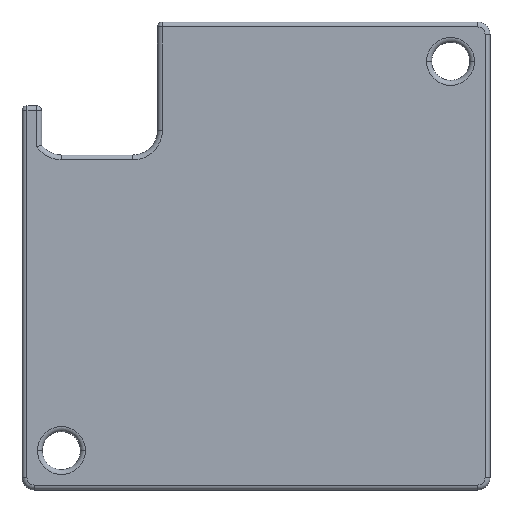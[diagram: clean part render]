
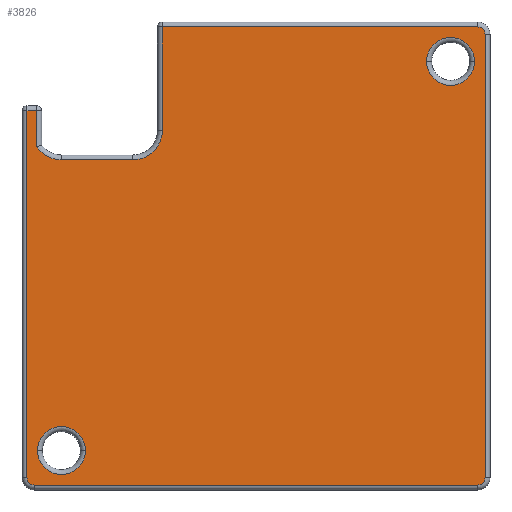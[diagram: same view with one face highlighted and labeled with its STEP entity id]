
A CAD part, left-side view. The second image highlights one B-rep face of the part: STEP entity #3826.
In plain terms, the highlighted planar face has unit normal (-1, 0, 0).
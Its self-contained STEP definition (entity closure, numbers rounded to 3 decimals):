
#3015=CARTESIAN_POINT('Vertex',(0.,6.925,-7.9)) ;
#3018=CARTESIAN_POINT('Axis2P3D Location',(0.,7.9,-7.9)) ;
#3022=CARTESIAN_POINT('Vertex',(0.,8.875,-7.9)) ;
#3042=CARTESIAN_POINT('Axis2P3D Location',(0.,7.9,-7.9)) ;
#3269=CARTESIAN_POINT('Vertex',(0.,-8.875,7.9)) ;
#3272=CARTESIAN_POINT('Axis2P3D Location',(0.,-7.9,7.9)) ;
#3276=CARTESIAN_POINT('Vertex',(0.,-6.925,7.9)) ;
#3296=CARTESIAN_POINT('Axis2P3D Location',(0.,-7.9,7.9)) ;
#3707=CARTESIAN_POINT('Axis2P3D Location',(0.,0.,0.)) ;
#3712=CARTESIAN_POINT('Line Origine',(0.,8.9,5.168)) ;
#3716=CARTESIAN_POINT('Vertex',(0.,8.9,5.9)) ;
#3718=CARTESIAN_POINT('Vertex',(0.,8.9,4.437)) ;
#3721=CARTESIAN_POINT('Line Origine',(0.,9.1,5.9)) ;
#3725=CARTESIAN_POINT('Vertex',(0.,9.3,5.9)) ;
#3728=CARTESIAN_POINT('Line Origine',(0.,9.3,-1.55)) ;
#3732=CARTESIAN_POINT('Vertex',(0.,9.3,-9.)) ;
#3735=CARTESIAN_POINT('Axis2P3D Location',(0.,9.,-9.)) ;
#3739=CARTESIAN_POINT('Vertex',(0.,9.,-9.3)) ;
#3742=CARTESIAN_POINT('Line Origine',(0.,0.,-9.3)) ;
#3746=CARTESIAN_POINT('Vertex',(0.,-9.,-9.3)) ;
#3749=CARTESIAN_POINT('Axis2P3D Location',(0.,-9.,-9.)) ;
#3753=CARTESIAN_POINT('Vertex',(0.,-9.3,-9.)) ;
#3756=CARTESIAN_POINT('Line Origine',(0.,-9.3,0.)) ;
#3760=CARTESIAN_POINT('Vertex',(0.,-9.3,9.)) ;
#3763=CARTESIAN_POINT('Axis2P3D Location',(0.,-9.,9.)) ;
#3767=CARTESIAN_POINT('Vertex',(0.,-9.,9.3)) ;
#3770=CARTESIAN_POINT('Line Origine',(0.,-2.6,9.3)) ;
#3774=CARTESIAN_POINT('Vertex',(0.,3.8,9.3)) ;
#3777=CARTESIAN_POINT('Line Origine',(0.,3.8,7.2)) ;
#3781=CARTESIAN_POINT('Vertex',(0.,3.8,5.1)) ;
#3784=CARTESIAN_POINT('Axis2P3D Location',(0.,5.,5.1)) ;
#3788=CARTESIAN_POINT('Vertex',(0.,5.,3.9)) ;
#3791=CARTESIAN_POINT('Line Origine',(0.,6.45,3.9)) ;
#3795=CARTESIAN_POINT('Vertex',(0.,7.9,3.9)) ;
#3798=CARTESIAN_POINT('Axis2P3D Location',(0.,7.9,5.1)) ;
#3019=DIRECTION('Axis2P3D Direction',(1.,-0.,0.)) ;
#3043=DIRECTION('Axis2P3D Direction',(1.,0.,-0.)) ;
#3273=DIRECTION('Axis2P3D Direction',(1.,-0.,0.)) ;
#3297=DIRECTION('Axis2P3D Direction',(1.,0.,-0.)) ;
#3708=DIRECTION('Axis2P3D Direction',(1.,0.,0.)) ;
#3709=DIRECTION('Axis2P3D XDirection',(0.,1.,0.)) ;
#3713=DIRECTION('Vector Direction',(0.,0.,-1.)) ;
#3722=DIRECTION('Vector Direction',(0.,-1.,0.)) ;
#3729=DIRECTION('Vector Direction',(0.,0.,-1.)) ;
#3736=DIRECTION('Axis2P3D Direction',(1.,0.,0.)) ;
#3743=DIRECTION('Vector Direction',(0.,-1.,0.)) ;
#3750=DIRECTION('Axis2P3D Direction',(1.,0.,0.)) ;
#3757=DIRECTION('Vector Direction',(0.,0.,1.)) ;
#3764=DIRECTION('Axis2P3D Direction',(1.,0.,0.)) ;
#3771=DIRECTION('Vector Direction',(0.,1.,0.)) ;
#3778=DIRECTION('Vector Direction',(0.,0.,-1.)) ;
#3785=DIRECTION('Axis2P3D Direction',(1.,0.,0.)) ;
#3792=DIRECTION('Vector Direction',(0.,1.,0.)) ;
#3799=DIRECTION('Axis2P3D Direction',(1.,0.,0.)) ;
#3020=AXIS2_PLACEMENT_3D('Circle Axis2P3D',#3018,#3019,$) ;
#3044=AXIS2_PLACEMENT_3D('Circle Axis2P3D',#3042,#3043,$) ;
#3274=AXIS2_PLACEMENT_3D('Circle Axis2P3D',#3272,#3273,$) ;
#3298=AXIS2_PLACEMENT_3D('Circle Axis2P3D',#3296,#3297,$) ;
#3710=AXIS2_PLACEMENT_3D('Plane Axis2P3D',#3707,#3708,#3709) ;
#3737=AXIS2_PLACEMENT_3D('Circle Axis2P3D',#3735,#3736,$) ;
#3751=AXIS2_PLACEMENT_3D('Circle Axis2P3D',#3749,#3750,$) ;
#3765=AXIS2_PLACEMENT_3D('Circle Axis2P3D',#3763,#3764,$) ;
#3786=AXIS2_PLACEMENT_3D('Circle Axis2P3D',#3784,#3785,$) ;
#3800=AXIS2_PLACEMENT_3D('Circle Axis2P3D',#3798,#3799,$) ;
#3804=ORIENTED_EDGE('',*,*,#3720,.F.) ;
#3805=ORIENTED_EDGE('',*,*,#3727,.F.) ;
#3806=ORIENTED_EDGE('',*,*,#3734,.F.) ;
#3807=ORIENTED_EDGE('',*,*,#3741,.F.) ;
#3808=ORIENTED_EDGE('',*,*,#3748,.F.) ;
#3809=ORIENTED_EDGE('',*,*,#3755,.F.) ;
#3810=ORIENTED_EDGE('',*,*,#3762,.F.) ;
#3811=ORIENTED_EDGE('',*,*,#3769,.F.) ;
#3812=ORIENTED_EDGE('',*,*,#3776,.F.) ;
#3813=ORIENTED_EDGE('',*,*,#3783,.F.) ;
#3814=ORIENTED_EDGE('',*,*,#3790,.F.) ;
#3815=ORIENTED_EDGE('',*,*,#3797,.F.) ;
#3816=ORIENTED_EDGE('',*,*,#3802,.F.) ;
#3819=ORIENTED_EDGE('',*,*,#3278,.F.) ;
#3820=ORIENTED_EDGE('',*,*,#3300,.F.) ;
#3823=ORIENTED_EDGE('',*,*,#3024,.F.) ;
#3824=ORIENTED_EDGE('',*,*,#3046,.F.) ;
#3821=FACE_BOUND('',#3818,.T.) ;
#3825=FACE_BOUND('',#3822,.T.) ;
#3714=VECTOR('Line Direction',#3713,1.) ;
#3723=VECTOR('Line Direction',#3722,1.) ;
#3730=VECTOR('Line Direction',#3729,1.) ;
#3744=VECTOR('Line Direction',#3743,1.) ;
#3758=VECTOR('Line Direction',#3757,1.) ;
#3772=VECTOR('Line Direction',#3771,1.) ;
#3779=VECTOR('Line Direction',#3778,1.) ;
#3793=VECTOR('Line Direction',#3792,1.) ;
#3826=ADVANCED_FACE('\X2\96F64EF651E04F554F53\X0\',(#3817,#3821,#3825),#3711,.F.) ;
#3021=CIRCLE('generated circle',#3020,0.975) ;
#3045=CIRCLE('generated circle',#3044,0.975) ;
#3275=CIRCLE('generated circle',#3274,0.975) ;
#3299=CIRCLE('generated circle',#3298,0.975) ;
#3738=CIRCLE('generated circle',#3737,0.3) ;
#3752=CIRCLE('generated circle',#3751,0.3) ;
#3766=CIRCLE('generated circle',#3765,0.3) ;
#3787=CIRCLE('generated circle',#3786,1.2) ;
#3801=CIRCLE('generated circle',#3800,1.2) ;
#3024=EDGE_CURVE('',#3016,#3023,#3021,.F.) ;
#3046=EDGE_CURVE('',#3023,#3016,#3045,.F.) ;
#3278=EDGE_CURVE('',#3270,#3277,#3275,.F.) ;
#3300=EDGE_CURVE('',#3277,#3270,#3299,.F.) ;
#3720=EDGE_CURVE('',#3717,#3719,#3715,.T.) ;
#3727=EDGE_CURVE('',#3726,#3717,#3724,.T.) ;
#3734=EDGE_CURVE('',#3733,#3726,#3731,.F.) ;
#3741=EDGE_CURVE('',#3740,#3733,#3738,.T.) ;
#3748=EDGE_CURVE('',#3747,#3740,#3745,.F.) ;
#3755=EDGE_CURVE('',#3754,#3747,#3752,.T.) ;
#3762=EDGE_CURVE('',#3761,#3754,#3759,.F.) ;
#3769=EDGE_CURVE('',#3768,#3761,#3766,.T.) ;
#3776=EDGE_CURVE('',#3775,#3768,#3773,.F.) ;
#3783=EDGE_CURVE('',#3782,#3775,#3780,.F.) ;
#3790=EDGE_CURVE('',#3789,#3782,#3787,.F.) ;
#3797=EDGE_CURVE('',#3796,#3789,#3794,.F.) ;
#3802=EDGE_CURVE('',#3719,#3796,#3801,.F.) ;
#3803=EDGE_LOOP('',(#3804,#3805,#3806,#3807,#3808,#3809,#3810,#3811,#3812,#3813,#3814,#3815,#3816)) ;
#3818=EDGE_LOOP('',(#3819,#3820)) ;
#3822=EDGE_LOOP('',(#3823,#3824)) ;
#3817=FACE_OUTER_BOUND('',#3803,.T.) ;
#3715=LINE('Line',#3712,#3714) ;
#3724=LINE('Line',#3721,#3723) ;
#3731=LINE('Line',#3728,#3730) ;
#3745=LINE('Line',#3742,#3744) ;
#3759=LINE('Line',#3756,#3758) ;
#3773=LINE('Line',#3770,#3772) ;
#3780=LINE('Line',#3777,#3779) ;
#3794=LINE('Line',#3791,#3793) ;
#3711=PLANE('',#3710) ;
#3016=VERTEX_POINT('',#3015) ;
#3023=VERTEX_POINT('',#3022) ;
#3270=VERTEX_POINT('',#3269) ;
#3277=VERTEX_POINT('',#3276) ;
#3717=VERTEX_POINT('',#3716) ;
#3719=VERTEX_POINT('',#3718) ;
#3726=VERTEX_POINT('',#3725) ;
#3733=VERTEX_POINT('',#3732) ;
#3740=VERTEX_POINT('',#3739) ;
#3747=VERTEX_POINT('',#3746) ;
#3754=VERTEX_POINT('',#3753) ;
#3761=VERTEX_POINT('',#3760) ;
#3768=VERTEX_POINT('',#3767) ;
#3775=VERTEX_POINT('',#3774) ;
#3782=VERTEX_POINT('',#3781) ;
#3789=VERTEX_POINT('',#3788) ;
#3796=VERTEX_POINT('',#3795) ;
